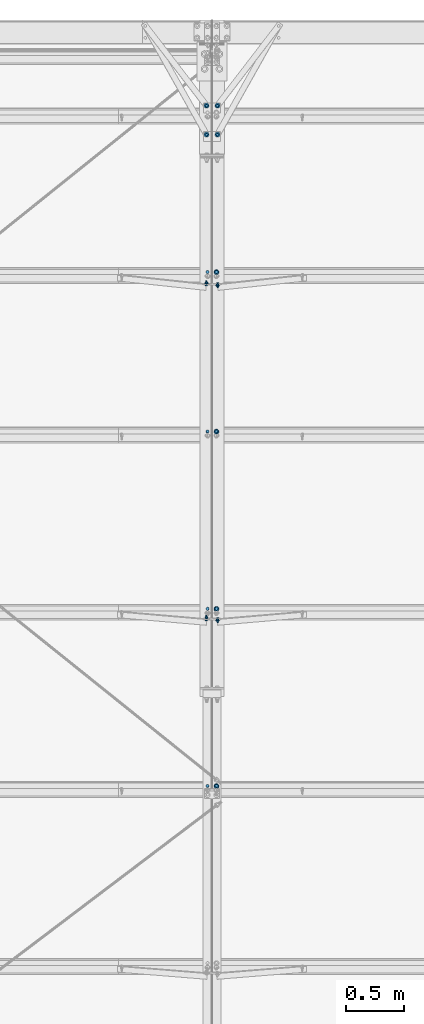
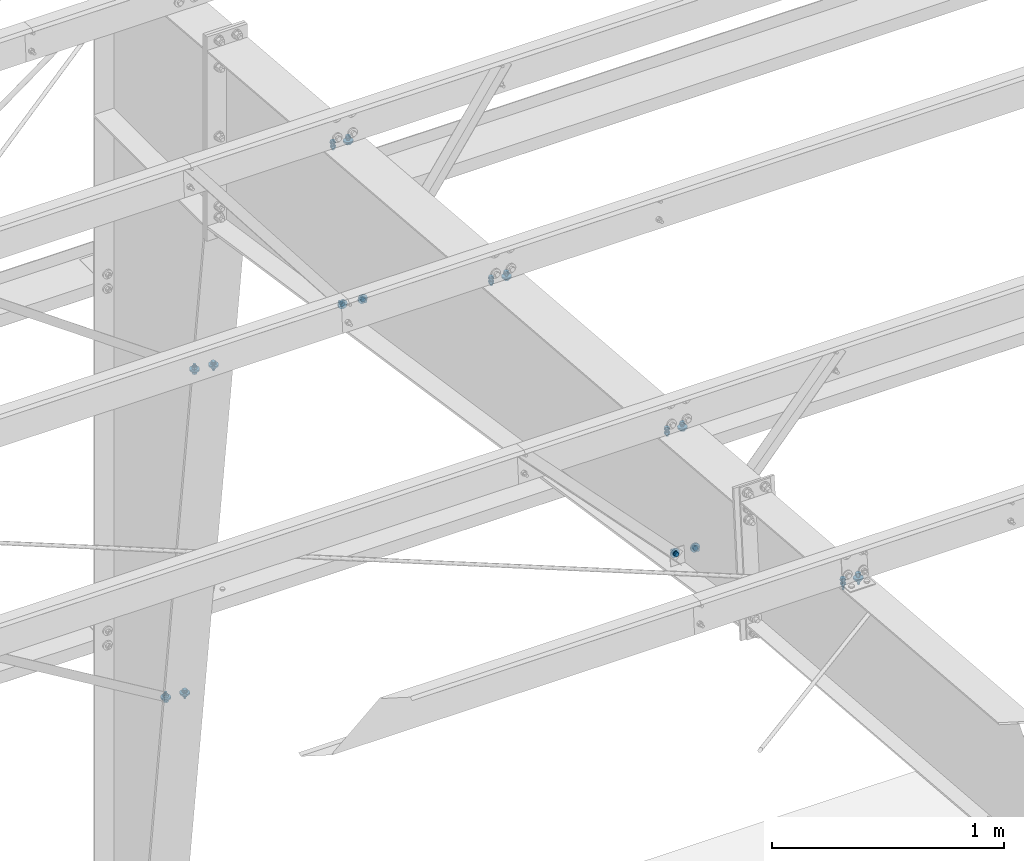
# One storey, part 154 of 185: 24 mechanical fasteners, 14 elements without a shape of their own.
"""IFC2X3 building model written with IfcOpenShell, lengths in millimetres."""

from ifc_helpers import new_model, si_unit, frame, origin_with_axes, origin_2d_with_axis, place, context, subcontext, project, spatial, polyline, circle, outline, extrude, source, transform, mapped, material, type_object, element, aggregate, save


model = new_model("IFC2X3")

# Units and contexts
model_context = context("Model", 3, precision=1e-05, world=origin_with_axes())
body_context = subcontext(model_context, "Body", "Model", "MODEL_VIEW")
ifc_project = project(units=[si_unit("LENGTHUNIT", "METRE", prefix="MILLI"), si_unit("AREAUNIT", "SQUARE_METRE"), si_unit("VOLUMEUNIT", "CUBIC_METRE"), si_unit("MASSUNIT", "GRAM", prefix="KILO"), si_unit("TIMEUNIT", "SECOND"), si_unit("PLANEANGLEUNIT", "RADIAN"), si_unit("SOLIDANGLEUNIT", "STERADIAN"), si_unit("THERMODYNAMICTEMPERATUREUNIT", "DEGREE_CELSIUS"), si_unit("LUMINOUSINTENSITYUNIT", "LUMEN")], contexts=[model_context])

# Site, building, storey
site_placement = place(None, origin_with_axes())
site = spatial("IfcSite", under=ifc_project, at=site_placement, Name="Undefined", CompositionType="ELEMENT")
building_placement = place(site_placement, origin_with_axes())
building = spatial("IfcBuilding", under=site, at=building_placement, Name="Undefined", CompositionType="ELEMENT")
storey_placement = place(building_placement, origin_with_axes())
storey = spatial("IfcBuildingStorey", under=building, at=storey_placement, Name="Undefined", CompositionType="ELEMENT", Elevation=0.0)

# Assembly, mechanical fastener
assembly_1_placement = place(storey_placement, origin_with_axes())
assembly_1 = element("IfcElementAssembly", 1, at=assembly_1_placement, inside=storey, Name="Steel Assembly", AssemblyPlace="NOTDEFINED", PredefinedType="RIGID_FRAME")
ifc_material_1 = material(Name="Undefined")
discrete_accessory_type = type_object("IfcDiscreteAccessoryType", Name="Bolt assembly")
shared_shape_1 = source(origin_with_axes(), body_context, "Body", "SweptSolid", [
    extrude(circle(Radius=7.14374971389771, at=origin_2d_with_axis()), frame((0.0, -1.59000001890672, 0.0), z_axis=(0.0, 1.0, 0.0), x_axis=(1.0, 0.0, 0.0)), (0.0, 0.0, 1.0), 1.7),
    extrude(outline(polyline([(10.9985221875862, 0.0), (5.4992610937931, 9.52499961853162), (-5.4992610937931, 9.52499961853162), (-10.9985221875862, 0.0), (-5.4992610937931, -9.52499961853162), (5.4992610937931, -9.52499961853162), (10.9985221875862, 0.0)])), frame((0.0, -15.0837496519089, 0.0), z_axis=(0.0, 1.0, 0.0), x_axis=(1.0, 0.0, 0.0)), (0.0, 0.0, 1.0), 9.5),
    extrude(circle(Radius=6.34999990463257, at=origin_2d_with_axis()), frame((0.0, -5.5587500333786, 0.0), z_axis=(0.0, 1.0, 0.0), x_axis=(1.0, 0.0, 0.0)), (0.0, 0.0, 1.0), 38.1),
    extrude(circle(Radius=13.4937496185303, at=origin_2d_with_axis()), frame((0.0, -5.5587500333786, 0.0), z_axis=(0.0, 1.0, 0.0), x_axis=(1.0, 0.0, 0.0)), (0.0, 0.0, 1.0), 4.0),
    extrude(circle(Radius=22.2250003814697, at=origin_2d_with_axis()), frame((0.0, 0.0, 0.0), z_axis=(0.0, 1.0, 0.0), x_axis=(1.0, 0.0, 0.0)), (0.0, 0.0, 1.0), 7.9),
    extrude(outline(polyline([(12.8316099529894, 0.0), (6.4158049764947, 11.1125001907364), (-6.4158049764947, 11.1125001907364), (-12.8316099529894, 0.0), (-6.4158049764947, -11.1125001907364), (6.4158049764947, -11.1125001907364), (12.8316099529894, 0.0)])), frame((0.0, 7.93750000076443, 0.0), z_axis=(0.0, 1.0, 0.0), x_axis=(1.0, 0.0, 0.0)), (0.0, 0.0, 1.0), 12.3),
])
mechanical_fastener_1_placement = place(assembly_1_placement, frame((14906.3218854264, 31022.2634783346, 4165.6), z_axis=(-0.871364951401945, 0.490635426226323, 0.0), x_axis=(0.490635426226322, 0.871364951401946, 0.0)))
mechanical_fastener_1 = element("IfcMechanicalFastener", 2, at=mechanical_fastener_1_placement, type_object=discrete_accessory_type, material=ifc_material_1, Name="Bolt assembly", NominalDiameter=12.6999998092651, NominalLength=38.0999984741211, context=body_context, shape_type="MappedRepresentation", body=[
    mapped(shared_shape_1, transform((0.0, 0.0, 0.0))),
])
aggregate(assembly_1, [mechanical_fastener_1])

assembly_2_placement = place(storey_placement, origin_with_axes())
assembly_2 = element("IfcElementAssembly", 3, at=assembly_2_placement, inside=storey, Name="Steel Assembly", AssemblyPlace="NOTDEFINED", PredefinedType="RIGID_FRAME")
mechanical_fastener_2_placement = place(assembly_2_placement, frame((14906.4399844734, 31270.1836420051, 2286.0), z_axis=(-0.793374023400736, 0.608734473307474, 0.0), x_axis=(0.608734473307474, 0.793374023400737, 0.0)))
mechanical_fastener_2 = element("IfcMechanicalFastener", 4, at=mechanical_fastener_2_placement, type_object=discrete_accessory_type, material=ifc_material_1, Name="Bolt assembly", NominalDiameter=12.6999998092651, NominalLength=38.0999984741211, context=body_context, shape_type="MappedRepresentation", body=[
    mapped(shared_shape_1, transform((0.0, 0.0, 0.0))),
])
aggregate(assembly_2, [mechanical_fastener_2])

assembly_3_placement = place(storey_placement, origin_with_axes())
assembly_3 = element("IfcElementAssembly", 5, at=assembly_3_placement, inside=storey, Name="Steel Assembly", AssemblyPlace="NOTDEFINED", PredefinedType="RIGID_FRAME")
mechanical_fastener_3_placement = place(assembly_3_placement, frame((14811.4738455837, 26870.2303027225, 5718.25976911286), z_axis=(-0.718860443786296, -0.0577294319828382, -0.692753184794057), x_axis=(-0.695154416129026, 0.0596981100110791, 0.716377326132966)))
mechanical_fastener_3 = element("IfcMechanicalFastener", 6, at=mechanical_fastener_3_placement, type_object=discrete_accessory_type, material=ifc_material_1, Name="Bolt assembly", NominalDiameter=12.6999998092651, NominalLength=38.0999984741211, context=body_context, shape_type="MappedRepresentation", body=[
    mapped(shared_shape_1, transform((0.0, 0.0, 0.0))),
])
aggregate(assembly_3, [mechanical_fastener_3])

assembly_4_placement = place(storey_placement, origin_with_axes())
assembly_4 = element("IfcElementAssembly", 7, at=assembly_4_placement, inside=storey, Name="Steel Assembly", AssemblyPlace="NOTDEFINED", PredefinedType="RIGID_FRAME")
mechanical_fastener_4_placement = place(assembly_4_placement, frame((14811.5578036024, 29740.0659329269, 5288.64606931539), z_axis=(-0.791478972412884, -0.0507570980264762, -0.609085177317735), x_axis=(-0.611196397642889, 0.065728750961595, 0.78874501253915)))
mechanical_fastener_4 = element("IfcMechanicalFastener", 8, at=mechanical_fastener_4_placement, type_object=discrete_accessory_type, material=ifc_material_1, Name="Bolt assembly", NominalDiameter=12.6999998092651, NominalLength=38.0999984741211, context=body_context, shape_type="MappedRepresentation", body=[
    mapped(shared_shape_1, transform((0.0, 0.0, 0.0))),
])
aggregate(assembly_4, [mechanical_fastener_4])

assembly_5_placement = place(storey_placement, origin_with_axes())
assembly_5 = element("IfcElementAssembly", 9, at=assembly_5_placement, inside=storey, Name="Steel Assembly", AssemblyPlace="NOTDEFINED", PredefinedType="RIGID_FRAME")
shared_shape_2 = source(origin_with_axes(), body_context, "Body", "SweptSolid", [
    extrude(circle(Radius=7.14374971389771, at=origin_2d_with_axis()), frame((0.0, 0.0, 0.0), z_axis=(0.0, 1.0, 0.0), x_axis=(1.0, 0.0, 0.0)), (0.0, 0.0, 1.0), 1.7),
    extrude(outline(polyline([(10.9985221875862, 0.0), (5.4992610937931, 9.52499961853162), (-5.4992610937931, 9.52499961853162), (-10.9985221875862, 0.0), (-5.4992610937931, -9.52499961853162), (5.4992610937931, -9.52499961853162), (10.9985221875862, 0.0)])), frame((0.0, -13.4937496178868, 0.0), z_axis=(0.0, 1.0, 0.0), x_axis=(1.0, 0.0, 0.0)), (0.0, 0.0, 1.0), 9.5),
    extrude(circle(Radius=6.34999990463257, at=origin_2d_with_axis()), frame((0.0, -3.96874999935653, 0.0), z_axis=(0.0, 1.0, 0.0), x_axis=(1.0, 0.0, 0.0)), (0.0, 0.0, 1.0), 38.1),
    extrude(circle(Radius=13.4937496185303, at=origin_2d_with_axis()), frame((0.0, -3.96874999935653, 0.0), z_axis=(0.0, 1.0, 0.0), x_axis=(1.0, 0.0, 0.0)), (0.0, 0.0, 1.0), 4.0),
    extrude(circle(Radius=22.2250003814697, at=origin_2d_with_axis()), frame((0.0, 1.5900000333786, 0.0), z_axis=(0.0, 1.0, 0.0), x_axis=(1.0, 0.0, 0.0)), (0.0, 0.0, 1.0), 7.9),
    extrude(outline(polyline([(12.8316099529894, 0.0), (6.4158049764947, 11.1125001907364), (-6.4158049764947, 11.1125001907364), (-12.8316099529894, 0.0), (-6.4158049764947, -11.1125001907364), (6.4158049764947, -11.1125001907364), (12.8316099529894, 0.0)])), frame((0.0, 9.5275000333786, 0.0), z_axis=(0.0, 1.0, 0.0), x_axis=(1.0, 0.0, 0.0)), (0.0, 0.0, 1.0), 12.3),
])
mechanical_fastener_5_placement = place(assembly_5_placement, frame((14811.6781145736, 31022.2634783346, 4165.6), z_axis=(0.871364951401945, 0.490635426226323, 0.0), x_axis=(-0.490635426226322, 0.871364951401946, 0.0)))
mechanical_fastener_5 = element("IfcMechanicalFastener", 10, at=mechanical_fastener_5_placement, type_object=discrete_accessory_type, material=ifc_material_1, Name="Bolt assembly", NominalDiameter=12.6999998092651, NominalLength=38.0999984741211, context=body_context, shape_type="MappedRepresentation", body=[
    mapped(shared_shape_2, transform((0.0, 0.0, 0.0))),
])
aggregate(assembly_5, [mechanical_fastener_5])

assembly_6_placement = place(storey_placement, origin_with_axes())
assembly_6 = element("IfcElementAssembly", 11, at=assembly_6_placement, inside=storey, Name="Steel Assembly", AssemblyPlace="NOTDEFINED", PredefinedType="RIGID_FRAME")
mechanical_fastener_6_placement = place(assembly_6_placement, frame((14811.5600155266, 31270.1836420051, 2286.0), z_axis=(0.793374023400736, 0.608734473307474, 0.0), x_axis=(-0.608734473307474, 0.793374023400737, 0.0)))
mechanical_fastener_6 = element("IfcMechanicalFastener", 12, at=mechanical_fastener_6_placement, type_object=discrete_accessory_type, material=ifc_material_1, Name="Bolt assembly", NominalDiameter=12.6999998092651, NominalLength=38.0999984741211, context=body_context, shape_type="MappedRepresentation", body=[
    mapped(shared_shape_2, transform((0.0, 0.0, 0.0))),
])
aggregate(assembly_6, [mechanical_fastener_6])

assembly_7_placement = place(storey_placement, origin_with_axes())
assembly_7 = element("IfcElementAssembly", 13, at=assembly_7_placement, inside=storey, Name="Steel Assembly", AssemblyPlace="NOTDEFINED", PredefinedType="RIGID_FRAME")
mechanical_fastener_7_placement = place(assembly_7_placement, frame((14906.5261544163, 26870.2303027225, 5718.25976911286), z_axis=(0.718860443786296, -0.0577294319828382, -0.692753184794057), x_axis=(0.695154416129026, 0.0596981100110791, 0.716377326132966)))
mechanical_fastener_7 = element("IfcMechanicalFastener", 14, at=mechanical_fastener_7_placement, type_object=discrete_accessory_type, material=ifc_material_1, Name="Bolt assembly", NominalDiameter=12.6999998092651, NominalLength=38.0999984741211, context=body_context, shape_type="MappedRepresentation", body=[
    mapped(shared_shape_2, transform((0.0, 0.0, 0.0))),
])
aggregate(assembly_7, [mechanical_fastener_7])

assembly_8_placement = place(storey_placement, origin_with_axes())
assembly_8 = element("IfcElementAssembly", 15, at=assembly_8_placement, inside=storey, Name="Steel Assembly", AssemblyPlace="NOTDEFINED", PredefinedType="RIGID_FRAME")
mechanical_fastener_8_placement = place(assembly_8_placement, frame((14906.4421963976, 29740.0659329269, 5288.64606931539), z_axis=(0.791478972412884, -0.0507570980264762, -0.609085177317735), x_axis=(0.611196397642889, 0.065728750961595, 0.78874501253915)))
mechanical_fastener_8 = element("IfcMechanicalFastener", 16, at=mechanical_fastener_8_placement, type_object=discrete_accessory_type, material=ifc_material_1, Name="Bolt assembly", NominalDiameter=12.6999998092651, NominalLength=38.0999984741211, context=body_context, shape_type="MappedRepresentation", body=[
    mapped(shared_shape_2, transform((0.0, 0.0, 0.0))),
])
aggregate(assembly_8, [mechanical_fastener_8])

# Assembly, mechanical fasteners
assembly_9_placement = place(storey_placement, origin_with_axes())
assembly_9 = element("IfcElementAssembly", 17, at=assembly_9_placement, inside=storey, Name="Steel Assembly", AssemblyPlace="NOTDEFINED", PredefinedType="RIGID_FRAME")
ifc_material_2 = material(Name="7990")
shared_shape_3 = source(origin_with_axes(), body_context, "Body", "SweptSolid", [
    extrude(circle(Radius=7.14374971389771, at=origin_2d_with_axis()), frame((0.0, -3.41600000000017, 0.0), z_axis=(0.0, 1.0, 0.0), x_axis=(1.0, 0.0, 0.0)), (0.0, 0.0, 1.0), 3.5),
    extrude(circle(Radius=11.4299998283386, at=origin_2d_with_axis()), frame((0.0, 0.0, 0.0), z_axis=(0.0, 1.0, 0.0), x_axis=(1.0, 0.0, 0.0)), (0.0, 0.0, 1.0), 4.2),
    extrude(outline(polyline([(12.171698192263, 0.0), (6.08584909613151, 10.5409998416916), (-6.08584909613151, 10.5409998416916), (-12.171698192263, 0.0), (-6.08584909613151, -10.5409998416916), (6.08584909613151, -10.5409998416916), (12.171698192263, 0.0)])), frame((0.0, 4.1909999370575, 0.0), z_axis=(0.0, 1.0, 0.0), x_axis=(1.0, 0.0, 0.0)), (0.0, 0.0, 1.0), 8.4),
])
mechanical_fastener_9_placement = place(assembly_9_placement, frame((14905.83125, 31021.3921133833, 4165.6), z_axis=(-0.921635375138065, -0.388057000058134, 0.0), x_axis=(0.388057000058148, -0.921635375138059, 0.0)))
mechanical_fastener_9 = element("IfcMechanicalFastener", 18, at=mechanical_fastener_9_placement, type_object=discrete_accessory_type, material=ifc_material_2, Name="Bolt assembly", NominalDiameter=12.6999998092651, NominalLength=38.0999984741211, context=body_context, shape_type="MappedRepresentation", body=[
    mapped(shared_shape_3, transform((0.0, 0.0, 0.0))),
])
mechanical_fastener_10_placement = place(assembly_9_placement, frame((14905.83125, 31269.3902679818, 2286.0), z_axis=(-0.921635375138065, -0.388057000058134, 0.0), x_axis=(0.388057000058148, -0.921635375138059, 0.0)))
mechanical_fastener_10 = element("IfcMechanicalFastener", 19, at=mechanical_fastener_10_placement, type_object=discrete_accessory_type, material=ifc_material_2, Name="Bolt assembly", NominalDiameter=12.6999998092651, NominalLength=38.0999984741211, context=body_context, shape_type="MappedRepresentation", body=[
    mapped(shared_shape_3, transform((0.0, 0.0, 0.0))),
])

assembly_10_placement = place(storey_placement, origin_with_axes())
assembly_10 = element("IfcElementAssembly", 20, at=assembly_10_placement, inside=storey, Name="Steel Assembly", AssemblyPlace="NOTDEFINED", PredefinedType="RIGID_FRAME")
mechanical_fastener_11_placement = place(assembly_10_placement, frame((14905.831, 26870.1706046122, 5717.54339178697), z_axis=(-0.921635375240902, -0.0322263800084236, -0.386716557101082), x_axis=(0.388056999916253, -0.0765376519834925, -0.918451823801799)))
mechanical_fastener_11 = element("IfcMechanicalFastener", 21, at=mechanical_fastener_11_placement, type_object=discrete_accessory_type, material=ifc_material_2, Name="Bolt assembly", NominalDiameter=12.6999998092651, NominalLength=38.0999984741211, context=body_context, shape_type="MappedRepresentation", body=[
    mapped(shared_shape_3, transform((0.0, 0.0, 0.0))),
])
mechanical_fastener_12_placement = place(assembly_10_placement, frame((14905.831, 29740.0002041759, 5287.85732430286), z_axis=(-0.921635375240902, -0.0322263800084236, -0.386716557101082), x_axis=(0.388056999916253, -0.0765376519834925, -0.918451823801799)))
mechanical_fastener_12 = element("IfcMechanicalFastener", 22, at=mechanical_fastener_12_placement, type_object=discrete_accessory_type, material=ifc_material_2, Name="Bolt assembly", NominalDiameter=12.6999998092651, NominalLength=38.0999984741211, context=body_context, shape_type="MappedRepresentation", body=[
    mapped(shared_shape_3, transform((0.0, 0.0, 0.0))),
])

# Mechanical fastener
shared_shape_4 = source(origin_with_axes(), body_context, "Body", "SweptSolid", [
    extrude(circle(Radius=7.14374971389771, at=origin_2d_with_axis()), frame((0.0, 0.0, 0.0), z_axis=(0.0, 1.0, 0.0), x_axis=(1.0, 0.0, 0.0)), (0.0, 0.0, 1.0), 3.5),
    extrude(circle(Radius=11.4299998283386, at=origin_2d_with_axis()), frame((0.0, 3.41600000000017, 0.0), z_axis=(0.0, 1.0, 0.0), x_axis=(1.0, 0.0, 0.0)), (0.0, 0.0, 1.0), 4.2),
    extrude(outline(polyline([(12.171698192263, 0.0), (6.08584909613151, 10.5409998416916), (-6.08584909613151, 10.5409998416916), (-12.171698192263, 0.0), (-6.08584909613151, -10.5409998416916), (6.08584909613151, -10.5409998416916), (12.171698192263, 0.0)])), frame((0.0, 7.60699993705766, 0.0), z_axis=(0.0, 1.0, 0.0), x_axis=(1.0, 0.0, 0.0)), (0.0, 0.0, 1.0), 8.4),
])
mechanical_fastener_13_placement = place(assembly_9_placement, frame((14812.16875, 31021.3921133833, 4165.6), z_axis=(0.921635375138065, -0.388057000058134, 0.0), x_axis=(-0.388057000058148, -0.921635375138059, 0.0)))
mechanical_fastener_13 = element("IfcMechanicalFastener", 23, at=mechanical_fastener_13_placement, type_object=discrete_accessory_type, material=ifc_material_2, Name="Bolt assembly", NominalDiameter=12.6999998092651, NominalLength=38.0999984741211, context=body_context, shape_type="MappedRepresentation", body=[
    mapped(shared_shape_4, transform((0.0, 0.0, 0.0))),
])

mechanical_fastener_14_placement = place(assembly_9_placement, frame((14812.16875, 31269.3902679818, 2286.0), z_axis=(0.921635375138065, -0.388057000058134, 0.0), x_axis=(-0.388057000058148, -0.921635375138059, 0.0)))
mechanical_fastener_14 = element("IfcMechanicalFastener", 24, at=mechanical_fastener_14_placement, type_object=discrete_accessory_type, material=ifc_material_2, Name="Bolt assembly", NominalDiameter=12.6999998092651, NominalLength=38.0999984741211, context=body_context, shape_type="MappedRepresentation", body=[
    mapped(shared_shape_4, transform((0.0, 0.0, 0.0))),
])

aggregate(assembly_9, [mechanical_fastener_9, mechanical_fastener_13, mechanical_fastener_10, mechanical_fastener_14])

mechanical_fastener_15_placement = place(assembly_10_placement, frame((14812.169, 26870.1706046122, 5717.54339178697), z_axis=(0.921635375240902, -0.0322263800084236, -0.386716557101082), x_axis=(-0.388056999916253, -0.0765376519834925, -0.918451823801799)))
mechanical_fastener_15 = element("IfcMechanicalFastener", 25, at=mechanical_fastener_15_placement, type_object=discrete_accessory_type, material=ifc_material_2, Name="Bolt assembly", NominalDiameter=12.6999998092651, NominalLength=38.0999984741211, context=body_context, shape_type="MappedRepresentation", body=[
    mapped(shared_shape_4, transform((0.0, 0.0, 0.0))),
])

mechanical_fastener_16_placement = place(assembly_10_placement, frame((14812.169, 29740.0002041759, 5287.85732430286), z_axis=(0.921635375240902, -0.0322263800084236, -0.386716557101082), x_axis=(-0.388056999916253, -0.0765376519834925, -0.918451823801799)))
mechanical_fastener_16 = element("IfcMechanicalFastener", 26, at=mechanical_fastener_16_placement, type_object=discrete_accessory_type, material=ifc_material_2, Name="Bolt assembly", NominalDiameter=12.6999998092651, NominalLength=38.0999984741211, context=body_context, shape_type="MappedRepresentation", body=[
    mapped(shared_shape_4, transform((0.0, 0.0, 0.0))),
])

aggregate(assembly_10, [mechanical_fastener_15, mechanical_fastener_11, mechanical_fastener_16, mechanical_fastener_12])

# Assembly, mechanical fasteners
assembly_11_placement = place(storey_placement, origin_with_axes())
assembly_11 = element("IfcElementAssembly", 27, at=assembly_11_placement, inside=storey, Name="Steel Assembly", AssemblyPlace="NOTDEFINED", PredefinedType="RIGID_FRAME")
shared_shape_5 = source(origin_with_axes(), body_context, "Body", "SweptSolid", [
    extrude(circle(Radius=7.14374971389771, at=origin_2d_with_axis()), frame((0.0, -0.0238014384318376, 0.0), z_axis=(0.0, 1.0, 0.0), x_axis=(1.0, 0.0, 0.0)), (0.0, 0.0, 1.0), 8.0),
    extrude(circle(Radius=7.14374971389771, at=origin_2d_with_axis()), frame((0.0, -3.08000006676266, 0.0), z_axis=(0.0, 1.0, 0.0), x_axis=(1.0, 0.0, 0.0)), (0.0, 0.0, 1.0), 3.2),
    extrude(circle(Radius=7.14374971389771, at=origin_2d_with_axis()), frame((0.0, -3.08000006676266, 0.0), z_axis=(0.0, 1.0, 0.0), x_axis=(1.0, 0.0, 0.0)), (0.0, 0.0, 1.0), 3.2),
    extrude(outline(polyline([(12.8316099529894, 0.0), (6.4158049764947, 11.1125001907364), (-6.4158049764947, 11.1125001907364), (-12.8316099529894, 0.0), (-6.4158049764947, -11.1125001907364), (6.4158049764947, -11.1125001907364), (12.8316099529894, 0.0)])), frame((0.0, -15.08625183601, 0.0), z_axis=(0.0, 1.0, 0.0), x_axis=(1.0, 0.0, 0.0)), (0.0, 0.0, 1.0), 7.9),
    extrude(circle(Radius=6.34999990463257, at=origin_2d_with_axis()), frame((0.0, -7.14875006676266, 0.0), z_axis=(0.0, 1.0, 0.0), x_axis=(1.0, 0.0, 0.0)), (0.0, 0.0, 1.0), 50.8),
    extrude(circle(Radius=13.4937496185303, at=origin_2d_with_axis()), frame((0.0, -7.14875006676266, 0.0), z_axis=(0.0, 1.0, 0.0), x_axis=(1.0, 0.0, 0.0)), (0.0, 0.0, 1.0), 4.0),
    extrude(circle(Radius=22.2250003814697, at=origin_2d_with_axis()), frame((0.0, 7.95019856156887, 0.0), z_axis=(0.0, 1.0, 0.0), x_axis=(1.0, 0.0, 0.0)), (0.0, 0.0, 1.0), 7.9),
    extrude(outline(polyline([(12.8316099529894, 0.0), (6.4158049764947, 11.1125001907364), (-6.4158049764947, 11.1125001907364), (-12.8316099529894, 0.0), (-6.4158049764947, -11.1125001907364), (6.4158049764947, -11.1125001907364), (12.8316099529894, 0.0)])), frame((0.0, 15.8876985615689, 0.0), z_axis=(0.0, 1.0, 0.0), x_axis=(1.0, 0.0, 0.0)), (0.0, 0.0, 1.0), 12.3),
])
mechanical_fastener_17_placement = place(assembly_11_placement, frame((14897.1, 25439.2546863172, 6439.15777571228), z_axis=(-1.0, 0.0, 0.0), x_axis=(0.0, 0.996545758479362, -0.0830454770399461)))
mechanical_fastener_17 = element("IfcMechanicalFastener", 28, at=mechanical_fastener_17_placement, type_object=discrete_accessory_type, material=ifc_material_1, Name="Bolt assembly", NominalDiameter=12.6999998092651, NominalLength=50.7999992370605, context=body_context, shape_type="MappedRepresentation", body=[
    mapped(shared_shape_5, transform((0.0, 0.0, 0.0))),
])
shared_shape_6 = source(origin_with_axes(), body_context, "Body", "SweptSolid", [
    extrude(circle(Radius=7.14374971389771, at=origin_2d_with_axis()), frame((0.0, -0.0238014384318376, 0.0), z_axis=(0.0, 1.0, 0.0), x_axis=(1.0, 0.0, 0.0)), (0.0, 0.0, 1.0), 8.0),
    extrude(circle(Radius=7.14374971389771, at=origin_2d_with_axis()), frame((0.0, -3.08000006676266, 0.0), z_axis=(0.0, 1.0, 0.0), x_axis=(1.0, 0.0, 0.0)), (0.0, 0.0, 1.0), 3.2),
    extrude(circle(Radius=7.14374971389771, at=origin_2d_with_axis()), frame((0.0, -3.08000006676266, 0.0), z_axis=(0.0, 1.0, 0.0), x_axis=(1.0, 0.0, 0.0)), (0.0, 0.0, 1.0), 3.2),
    extrude(outline(polyline([(12.8316099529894, 0.0), (6.4158049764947, 11.1125001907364), (-6.4158049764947, 11.1125001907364), (-12.8316099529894, 0.0), (-6.4158049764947, -11.1125001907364), (6.4158049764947, -11.1125001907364), (12.8316099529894, 0.0)])), frame((0.0, -15.08625183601, 0.0), z_axis=(0.0, 1.0, 0.0), x_axis=(1.0, 0.0, 0.0)), (0.0, 0.0, 1.0), 7.9),
    extrude(circle(Radius=6.34999990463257, at=origin_2d_with_axis()), frame((0.0, -7.14875006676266, 0.0), z_axis=(0.0, 1.0, 0.0), x_axis=(1.0, 0.0, 0.0)), (0.0, 0.0, 1.0), 50.8),
    extrude(circle(Radius=13.4937496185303, at=origin_2d_with_axis()), frame((0.0, -7.14875006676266, 0.0), z_axis=(0.0, 1.0, 0.0), x_axis=(1.0, 0.0, 0.0)), (0.0, 0.0, 1.0), 4.0),
    extrude(outline(polyline([(12.8316099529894, 0.0), (6.4158049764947, 11.1125001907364), (-6.4158049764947, 11.1125001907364), (-12.8316099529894, 0.0), (-6.4158049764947, -11.1125001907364), (6.4158049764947, -11.1125001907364), (12.8316099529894, 0.0)])), frame((0.0, 7.95019856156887, 0.0), z_axis=(0.0, 1.0, 0.0), x_axis=(1.0, 0.0, 0.0)), (0.0, 0.0, 1.0), 12.3),
])
mechanical_fastener_18_placement = place(assembly_11_placement, frame((14820.9, 25439.2546863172, 6439.15777571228), z_axis=(-1.0, 0.0, 0.0), x_axis=(0.0, 0.996545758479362, -0.0830454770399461)))
mechanical_fastener_18 = element("IfcMechanicalFastener", 29, at=mechanical_fastener_18_placement, type_object=discrete_accessory_type, material=ifc_material_1, Name="Bolt assembly", NominalDiameter=12.6999998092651, NominalLength=50.7999992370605, context=body_context, shape_type="MappedRepresentation", body=[
    mapped(shared_shape_6, transform((0.0, 0.0, 0.0))),
])
aggregate(assembly_11, [mechanical_fastener_17, mechanical_fastener_18])

# Assembly, mechanical fastener
assembly_12_placement = place(storey_placement, origin_with_axes())
assembly_12 = element("IfcElementAssembly", 30, at=assembly_12_placement, inside=storey, Name="Steel Assembly", AssemblyPlace="NOTDEFINED", PredefinedType="RIGID_FRAME")
shared_shape_7 = source(origin_with_axes(), body_context, "Body", "SweptSolid", [
    extrude(circle(Radius=7.14374971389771, at=origin_2d_with_axis()), frame((0.0, -0.0238014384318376, 0.0), z_axis=(0.0, 1.0, 0.0), x_axis=(1.0, 0.0, 0.0)), (0.0, 0.0, 1.0), 8.0),
    extrude(circle(Radius=7.14374971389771, at=origin_2d_with_axis()), frame((0.0, -3.08000006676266, 0.0), z_axis=(0.0, 1.0, 0.0), x_axis=(1.0, 0.0, 0.0)), (0.0, 0.0, 1.0), 3.2),
    extrude(circle(Radius=7.14374971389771, at=origin_2d_with_axis()), frame((0.0, -3.08000006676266, 0.0), z_axis=(0.0, 1.0, 0.0), x_axis=(1.0, 0.0, 0.0)), (0.0, 0.0, 1.0), 3.2),
    extrude(outline(polyline([(10.9985221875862, 0.0), (5.4992610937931, 9.52499961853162), (-5.4992610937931, 9.52499961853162), (-10.9985221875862, 0.0), (-5.4992610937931, -9.52499961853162), (5.4992610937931, -9.52499961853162), (10.9985221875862, 0.0)])), frame((0.0, -16.6737496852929, 0.0), z_axis=(0.0, 1.0, 0.0), x_axis=(1.0, 0.0, 0.0)), (0.0, 0.0, 1.0), 9.5),
    extrude(circle(Radius=6.34999990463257, at=origin_2d_with_axis()), frame((0.0, -7.14875006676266, 0.0), z_axis=(0.0, 1.0, 0.0), x_axis=(1.0, 0.0, 0.0)), (0.0, 0.0, 1.0), 38.1),
    extrude(circle(Radius=13.4937496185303, at=origin_2d_with_axis()), frame((0.0, -7.14875006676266, 0.0), z_axis=(0.0, 1.0, 0.0), x_axis=(1.0, 0.0, 0.0)), (0.0, 0.0, 1.0), 4.0),
    extrude(circle(Radius=22.2250003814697, at=origin_2d_with_axis()), frame((0.0, 7.95019856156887, 0.0), z_axis=(0.0, 1.0, 0.0), x_axis=(1.0, 0.0, 0.0)), (0.0, 0.0, 1.0), 7.9),
    extrude(outline(polyline([(12.8316099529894, 0.0), (6.4158049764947, 11.1125001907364), (-6.4158049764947, 11.1125001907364), (-12.8316099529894, 0.0), (-6.4158049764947, -11.1125001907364), (6.4158049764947, -11.1125001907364), (12.8316099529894, 0.0)])), frame((0.0, 15.8876985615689, 0.0), z_axis=(0.0, 1.0, 0.0), x_axis=(1.0, 0.0, 0.0)), (0.0, 0.0, 1.0), 12.3),
])
mechanical_fastener_19_placement = place(assembly_12_placement, frame((14897.1, 29843.5883209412, 6072.12997209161), z_axis=(-1.0, 0.0, 0.0), x_axis=(0.0, 0.996545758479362, -0.0830454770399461)))
mechanical_fastener_19 = element("IfcMechanicalFastener", 31, at=mechanical_fastener_19_placement, type_object=discrete_accessory_type, material=ifc_material_1, Name="Bolt assembly", NominalDiameter=12.6999998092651, NominalLength=38.0999984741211, context=body_context, shape_type="MappedRepresentation", body=[
    mapped(shared_shape_7, transform((0.0, 0.0, 0.0))),
])

assembly_13_placement = place(storey_placement, origin_with_axes())
assembly_13 = element("IfcElementAssembly", 32, at=assembly_13_placement, inside=storey, Name="Steel Assembly", AssemblyPlace="NOTDEFINED", PredefinedType="RIGID_FRAME")
mechanical_fastener_20_placement = place(assembly_13_placement, frame((14897.1, 28476.7261589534, 6186.03515249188), z_axis=(-1.0, 0.0, 0.0), x_axis=(0.0, 0.996545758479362, -0.0830454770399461)))
mechanical_fastener_20 = element("IfcMechanicalFastener", 33, at=mechanical_fastener_20_placement, type_object=discrete_accessory_type, material=ifc_material_1, Name="Bolt assembly", NominalDiameter=12.6999998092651, NominalLength=38.0999984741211, context=body_context, shape_type="MappedRepresentation", body=[
    mapped(shared_shape_7, transform((0.0, 0.0, 0.0))),
])

assembly_14_placement = place(storey_placement, origin_with_axes())
assembly_14 = element("IfcElementAssembly", 34, at=assembly_14_placement, inside=storey, Name="Steel Assembly", AssemblyPlace="NOTDEFINED", PredefinedType="RIGID_FRAME")
mechanical_fastener_21_placement = place(assembly_14_placement, frame((14897.1, 26957.9904234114, 6312.59646404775), z_axis=(-1.0, 0.0, 0.0), x_axis=(0.0, 0.996545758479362, -0.0830454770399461)))
mechanical_fastener_21 = element("IfcMechanicalFastener", 35, at=mechanical_fastener_21_placement, type_object=discrete_accessory_type, material=ifc_material_1, Name="Bolt assembly", NominalDiameter=12.6999998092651, NominalLength=38.0999984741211, context=body_context, shape_type="MappedRepresentation", body=[
    mapped(shared_shape_7, transform((0.0, 0.0, 0.0))),
])

# Mechanical fastener
shared_shape_8 = source(origin_with_axes(), body_context, "Body", "SweptSolid", [
    extrude(circle(Radius=7.14374971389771, at=origin_2d_with_axis()), frame((0.0, -0.0238014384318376, 0.0), z_axis=(0.0, 1.0, 0.0), x_axis=(1.0, 0.0, 0.0)), (0.0, 0.0, 1.0), 8.0),
    extrude(circle(Radius=7.14374971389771, at=origin_2d_with_axis()), frame((0.0, -3.08000006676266, 0.0), z_axis=(0.0, 1.0, 0.0), x_axis=(1.0, 0.0, 0.0)), (0.0, 0.0, 1.0), 3.2),
    extrude(circle(Radius=7.14374971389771, at=origin_2d_with_axis()), frame((0.0, -3.08000006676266, 0.0), z_axis=(0.0, 1.0, 0.0), x_axis=(1.0, 0.0, 0.0)), (0.0, 0.0, 1.0), 3.2),
    extrude(outline(polyline([(10.9985221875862, 0.0), (5.4992610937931, 9.52499961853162), (-5.4992610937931, 9.52499961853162), (-10.9985221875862, 0.0), (-5.4992610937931, -9.52499961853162), (5.4992610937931, -9.52499961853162), (10.9985221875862, 0.0)])), frame((0.0, -16.6737496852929, 0.0), z_axis=(0.0, 1.0, 0.0), x_axis=(1.0, 0.0, 0.0)), (0.0, 0.0, 1.0), 9.5),
    extrude(circle(Radius=6.34999990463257, at=origin_2d_with_axis()), frame((0.0, -7.14875006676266, 0.0), z_axis=(0.0, 1.0, 0.0), x_axis=(1.0, 0.0, 0.0)), (0.0, 0.0, 1.0), 38.1),
    extrude(circle(Radius=13.4937496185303, at=origin_2d_with_axis()), frame((0.0, -7.14875006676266, 0.0), z_axis=(0.0, 1.0, 0.0), x_axis=(1.0, 0.0, 0.0)), (0.0, 0.0, 1.0), 4.0),
    extrude(outline(polyline([(12.8316099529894, 0.0), (6.4158049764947, 11.1125001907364), (-6.4158049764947, 11.1125001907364), (-12.8316099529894, 0.0), (-6.4158049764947, -11.1125001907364), (6.4158049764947, -11.1125001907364), (12.8316099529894, 0.0)])), frame((0.0, 7.95019856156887, 0.0), z_axis=(0.0, 1.0, 0.0), x_axis=(1.0, 0.0, 0.0)), (0.0, 0.0, 1.0), 12.3),
])
mechanical_fastener_22_placement = place(assembly_12_placement, frame((14820.9, 29843.5883209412, 6072.12997209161), z_axis=(-1.0, 0.0, 0.0), x_axis=(0.0, 0.996545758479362, -0.0830454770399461)))
mechanical_fastener_22 = element("IfcMechanicalFastener", 36, at=mechanical_fastener_22_placement, type_object=discrete_accessory_type, material=ifc_material_1, Name="Bolt assembly", NominalDiameter=12.6999998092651, NominalLength=38.0999984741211, context=body_context, shape_type="MappedRepresentation", body=[
    mapped(shared_shape_8, transform((0.0, 0.0, 0.0))),
])

aggregate(assembly_12, [mechanical_fastener_19, mechanical_fastener_22])

mechanical_fastener_23_placement = place(assembly_13_placement, frame((14820.9, 28476.7261589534, 6186.03515249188), z_axis=(-1.0, 0.0, 0.0), x_axis=(0.0, 0.996545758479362, -0.0830454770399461)))
mechanical_fastener_23 = element("IfcMechanicalFastener", 37, at=mechanical_fastener_23_placement, type_object=discrete_accessory_type, material=ifc_material_1, Name="Bolt assembly", NominalDiameter=12.6999998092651, NominalLength=38.0999984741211, context=body_context, shape_type="MappedRepresentation", body=[
    mapped(shared_shape_8, transform((0.0, 0.0, 0.0))),
])

aggregate(assembly_13, [mechanical_fastener_20, mechanical_fastener_23])

mechanical_fastener_24_placement = place(assembly_14_placement, frame((14820.9, 26957.9904234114, 6312.59646404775), z_axis=(-1.0, 0.0, 0.0), x_axis=(0.0, 0.996545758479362, -0.0830454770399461)))
mechanical_fastener_24 = element("IfcMechanicalFastener", 38, at=mechanical_fastener_24_placement, type_object=discrete_accessory_type, material=ifc_material_1, Name="Bolt assembly", NominalDiameter=12.6999998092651, NominalLength=38.0999984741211, context=body_context, shape_type="MappedRepresentation", body=[
    mapped(shared_shape_8, transform((0.0, 0.0, 0.0))),
])

aggregate(assembly_14, [mechanical_fastener_21, mechanical_fastener_24])

save(model, "model.ifc")
